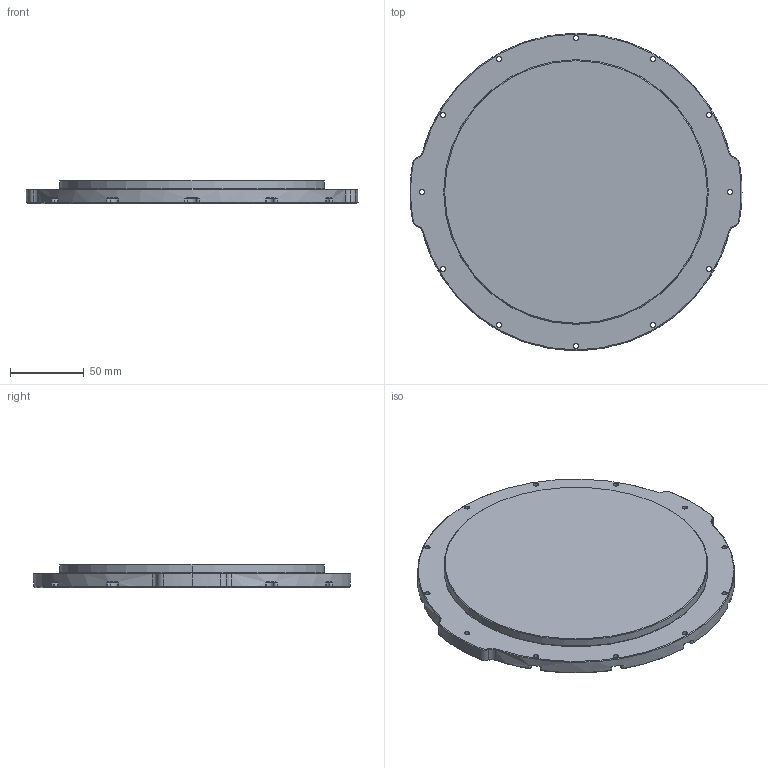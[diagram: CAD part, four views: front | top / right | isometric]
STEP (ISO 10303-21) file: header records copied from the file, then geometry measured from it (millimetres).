
FILE_DESCRIPTION (( 'STEP AP214' ), '1' );
FILE_NAME ('WTE8-END-CAP-BLANK.STEP', '2023-11-16T20:44:57', ( '' ), ( '' ), 'SwSTEP 2.0', 'SolidWorks 2022', '' );
FILE_SCHEMA (( 'AUTOMOTIVE_DESIGN' ));
Length unit declared in the file: millimetre
Products named in the file (1): WTE8-END-CAP-BLANK
Bounding box: 225.7 x 215.7 x 16 mm (x, y, z)
Volume: 518863.4 mm3; surface area: 84426.7 mm2
Topology: 1 solids, 1 shells, 316 faces, 750 edges, 419 vertices
Faces by surface type: cone 144, cylinder 87, torus 50, bspline 20, plane 15
Entity records: 12006 total; most frequent: CARTESIAN_POINT 4647, DIRECTION 1699, ORIENTED_EDGE 1460, AXIS2_PLACEMENT_3D 734, EDGE_CURVE 730, CIRCLE 437, VERTEX_POINT 419, EDGE_LOOP 343
